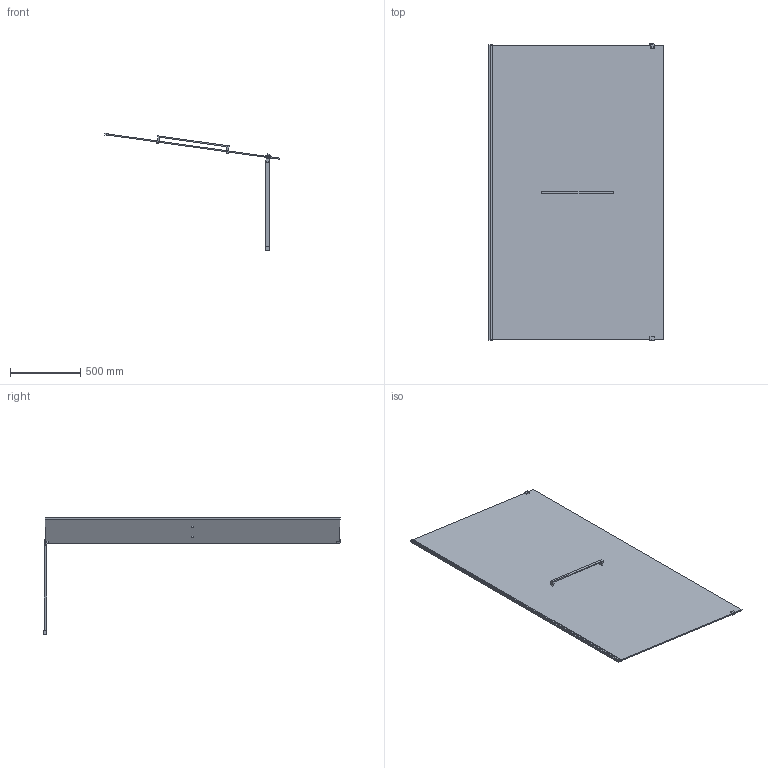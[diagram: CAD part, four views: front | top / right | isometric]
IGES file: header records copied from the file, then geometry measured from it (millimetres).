
Start section: SolidWorks IGES file using analytic representation for surfaces
Global section: file name: D:\Users\M.Szymanski\Desktop\Kabiny\PT\03. do przegrania\PT_ALTIIa_130_z_relingiem_K3D.IGS; native system: SolidWorks 2011; preprocessor: SolidWorks 2011; author: M.Szymanski; date: 181004.121625; units: millimetre
Bounding box: 1245.97 x 2115 x 837.46 mm (x, y, z)
Surface area: 5604318.3 mm2 (no closed solid volume)
Topology: 0 solids, 0 shells, 76 faces, 567 edges, 756 vertices
Faces by surface type: bspline 70, revolution 6
